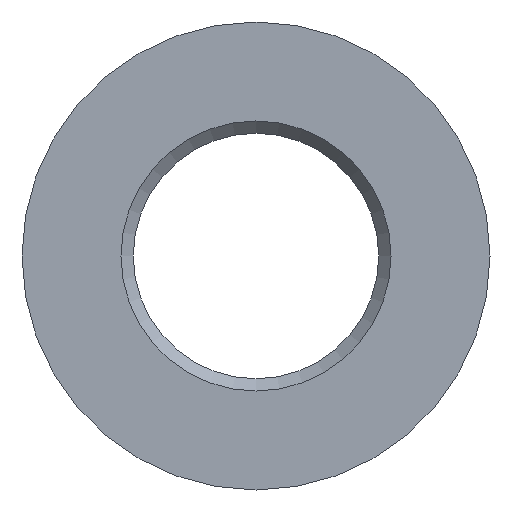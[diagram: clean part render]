
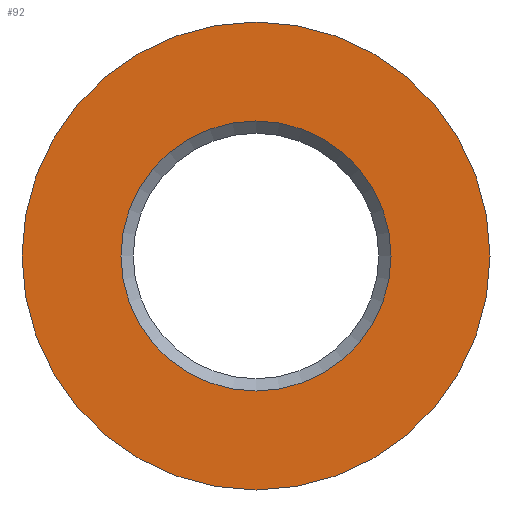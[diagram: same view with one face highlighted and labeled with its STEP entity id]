
A CAD part, front view. The second image highlights one B-rep face of the part: STEP entity #92.
In plain terms, the highlighted planar face has unit normal (0, -1, 0).
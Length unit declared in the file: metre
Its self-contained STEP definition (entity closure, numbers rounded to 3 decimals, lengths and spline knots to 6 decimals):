
#18=ORIENTED_EDGE('',*,*,#34,.T.);
#19=ORIENTED_EDGE('',*,*,#35,.F.);
#34=EDGE_CURVE('',#42,#42,#50,.T.);
#35=EDGE_CURVE('',#43,#43,#51,.T.);
#42=VERTEX_POINT('',#166);
#43=VERTEX_POINT('',#168);
#50=CIRCLE('',#114,0.00275);
#51=CIRCLE('',#115,0.004766);
#58=EDGE_LOOP('',(#18));
#59=EDGE_LOOP('',(#19));
#74=FACE_BOUND('',#58,.T.);
#75=FACE_BOUND('',#59,.T.);
#90=PLANE('',#113);
#92=ADVANCED_FACE('',(#74,#75),#90,.F.);
#113=AXIS2_PLACEMENT_3D('',#164,#131,#132);
#114=AXIS2_PLACEMENT_3D('',#165,#133,#134);
#115=AXIS2_PLACEMENT_3D('',#167,#135,#136);
#131=DIRECTION('',(0.,1.,0.));
#132=DIRECTION('',(1.,0.,0.));
#133=DIRECTION('',(0.,1.,0.));
#134=DIRECTION('',(1.,0.,0.));
#135=DIRECTION('',(0.,1.,0.));
#136=DIRECTION('',(1.,0.,0.));
#164=CARTESIAN_POINT('',(0.,0.025,-0.00275));
#165=CARTESIAN_POINT('',(0.,0.025,0.));
#166=CARTESIAN_POINT('',(0.00275,0.025,0.));
#167=CARTESIAN_POINT('',(0.,0.025,0.));
#168=CARTESIAN_POINT('',(0.004766,0.025,0.));
